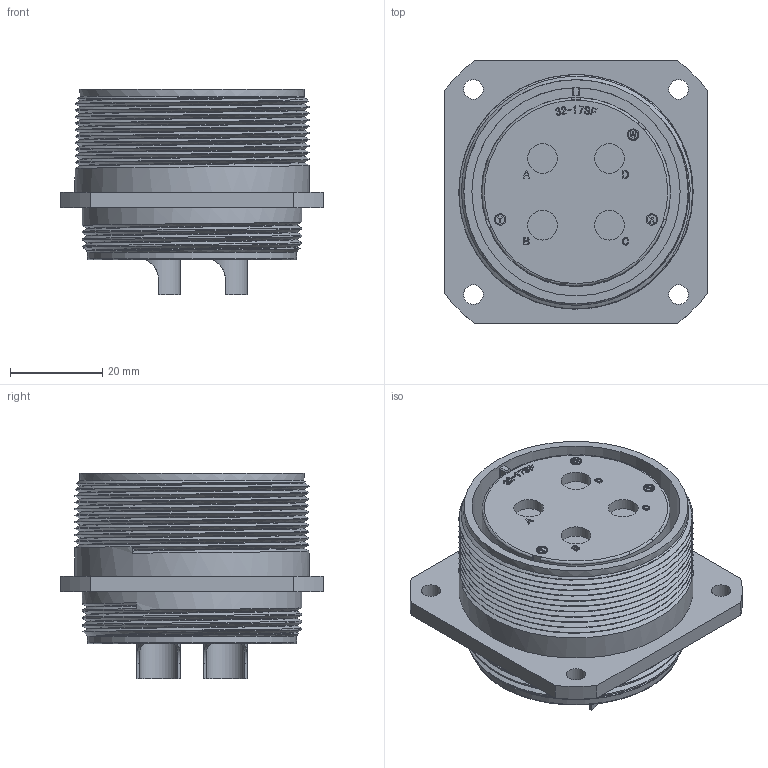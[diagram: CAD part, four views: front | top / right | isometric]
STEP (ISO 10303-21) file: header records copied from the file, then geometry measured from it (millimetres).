
FILE_DESCRIPTION (( 'STEP AP203' ), '1' );
FILE_NAME ('DMS3100A32-17S(D263).STEP', '2022-02-15T00:30:25', ( '' ), ( '' ), 'SwSTEP 2.0', 'SolidWorks 2018', '' );
FILE_SCHEMA (( 'CONFIG_CONTROL_DESIGN' ));
Length unit declared in the file: millimetre
Products named in the file (1): DMS3100A32-17S(D263)
Bounding box: 56.9 x 56.9 x 44.59 mm (x, y, z)
Volume: 61417.4 mm3; surface area: 24065 mm2
Topology: 1 solids, 1 shells, 610 faces, 1627 edges, 1080 vertices
Faces by surface type: plane 294, bspline 230, cylinder 78, torus 6, cone 2
Full cylindrical faces by diameter (mm): 2.1 x3, 2.5 x3, 4.27 x4, 6.43 x4, 8.33 x4, 9.48 x4, 38.1 x1, 41 x1, 42.93 x1, 45.12 x1, 45.3 x1, 47.58 x3, 48.6 x1, 50.76 x9
Entity records: 27932 total; most frequent: CARTESIAN_POINT 14765, ORIENTED_EDGE 3080, DIRECTION 1903, EDGE_CURVE 1540, VERTEX_POINT 1039, LINE 919, VECTOR 919, EDGE_LOOP 701
